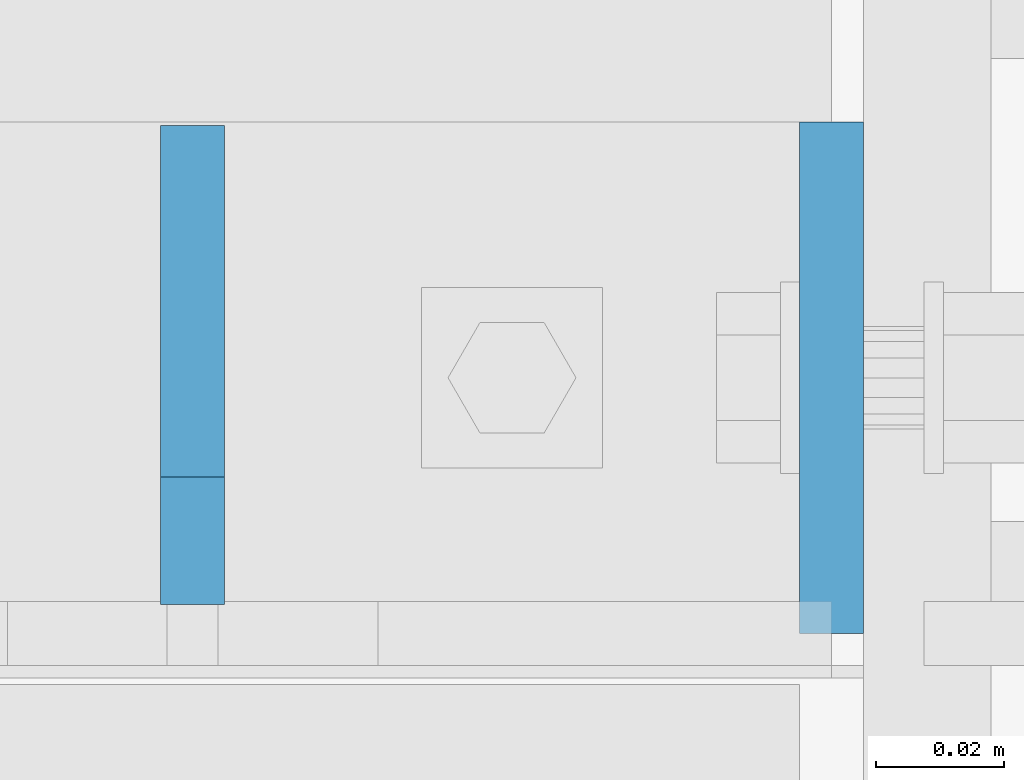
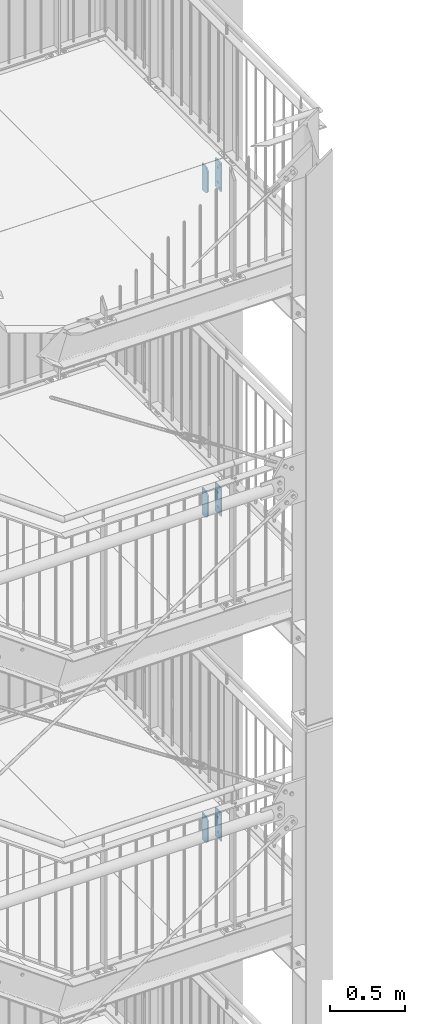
# One storey, part 207 of 831: 6 plates, 18 openings.
"""IFC2X3 building model written with IfcOpenShell, lengths in millimetres."""

from ifc_helpers import new_model, entity, si_unit, converted_unit, frame, frame_2d, origin, origin_with_axes, origin_2d_with_axis, place, context, project, spatial, polyline, circle, outline, extrude, material, layer, layer_set, element, save


model = new_model("IFC2X3")

# Units and contexts
model_context = context("Model", 3, precision=1e-09, world=origin_with_axes())
ifc_project = project(units=[si_unit("LENGTHUNIT", "METRE", prefix="MILLI"), si_unit("AREAUNIT", "SQUARE_METRE"), si_unit("VOLUMEUNIT", "CUBIC_METRE"), converted_unit("PLANEANGLEUNIT", "DEGREE", entity("IfcPlaneAngleMeasure", 0.01745329), si_unit("PLANEANGLEUNIT", "RADIAN"), dimensions=[0, 0, 0, 0, 0, 0, 0])], contexts=[model_context])

# Site, building, storey
site_placement = place(None, origin_with_axes())
site = spatial("IfcSite", under=ifc_project, at=site_placement, Name="Site", CompositionType="ELEMENT")
building_placement = place(site_placement, origin_with_axes())
building = spatial("IfcBuilding", under=site, at=building_placement, Name="Struktur 1", CompositionType="ELEMENT")
storey_placement = place(building_placement, origin_with_axes())
storey = spatial("IfcBuildingStorey", under=building, at=storey_placement, Name="Default Storey", CompositionType="ELEMENT", Elevation=0.0)

# Plate, openings
ifc_material = material(Name="S235JR")
ifc_layer = layer(ifc_material, 10.0)
ifc_layer_set = layer_set([ifc_layer], Name="S235JR")
plate_1_placement = place(None, frame((8971.713402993, 5741.736971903, 11260.5000003), z_axis=(-1.0, 0.0, 0.0), x_axis=(0.0, 1.0, 0.0)))
plate_1 = element("IfcPlate", 1, at=plate_1_placement, inside=storey, material=ifc_layer_set, Name="Endplate", ObjectType="Endplate", context=model_context, shape_type="SweptSolid", body=[
    extrude(outline(polyline([(0.0, 0.0), (80.0, 0.0), (80.0, 230.0), (0.0, 230.0), (0.0, 0.0)])), origin_with_axes(), (0.0, 0.0, 1.0), 10.0),
])
opening_1_placement = place(plate_1_placement, frame((17.5, 209.0, -0.5), z_axis=(0.0, 0.0, 1.0), x_axis=(0.0, -1.0, 0.0)))
element("IfcOpeningElement", 2, at=opening_1_placement, cuts=plate_1, ObjectType="Opening", context=model_context, shape_type="SweptSolid", body=[
    extrude(circle(Radius=6.001, at=origin_2d_with_axis()), origin(), (0.0, 0.0, 1.0), 11.0),
])
opening_2_placement = place(plate_1_placement, frame((17.5, 21.0, -0.5), z_axis=(0.0, 0.0, 1.0), x_axis=(0.0, -1.0, 0.0)))
element("IfcOpeningElement", 3, at=opening_2_placement, cuts=plate_1, ObjectType="Opening", context=model_context, shape_type="SweptSolid", body=[
    extrude(circle(Radius=6.001, at=origin_2d_with_axis()), origin(), (0.0, 0.0, 1.0), 11.0),
])
opening_3_placement = place(plate_1_placement, frame((40.0, 115.0, -0.5), z_axis=(0.0, 0.0, 1.0), x_axis=(0.0, -1.0, 0.0)))
element("IfcOpeningElement", 4, at=opening_3_placement, cuts=plate_1, ObjectType="Opening", context=model_context, shape_type="SweptSolid", body=[
    extrude(circle(Radius=9.001, at=frame_2d((60.0, 0.0), x_axis=(1.0, 0.0))), origin(), (0.0, 0.0, 1.0), 11.0),
])
opening_4_placement = place(plate_1_placement, frame((40.0, 115.0, -0.5), z_axis=(0.0, 0.0, 1.0), x_axis=(0.0, -1.0, 0.0)))
element("IfcOpeningElement", 5, at=opening_4_placement, cuts=plate_1, ObjectType="Opening", context=model_context, shape_type="SweptSolid", body=[
    extrude(circle(Radius=9.001, at=frame_2d((-60.0, 0.0), x_axis=(1.0, 0.0))), origin(), (0.0, 0.0, 1.0), 11.0),
])

plate_2_placement = place(None, frame((8861.713402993, 5821.236971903, 11254.355265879), z_axis=(1.0, 0.0, 0.0), x_axis=(0.0, -0.996815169, -0.079746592)))
plate_2 = element("IfcPlate", 6, at=plate_2_placement, inside=storey, material=ifc_layer_set, Name="Stiffener#1", ObjectType="Stiffener#1", context=model_context, shape_type="SweptSolid", body=[
    extrude(outline(polyline([(0.0, 0.0), (75.239625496, 0.0), (91.644322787, 205.05517107), (17.361672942, 217.017159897), (0.0, 0.0)])), origin_with_axes(), (0.0, 0.0, 1.0), 10.0),
])
opening_5_placement = place(plate_2_placement, frame((0.0, 0.0, -0.01), z_axis=(0.0, 0.0, 1.0), x_axis=(1.0, 0.0, 0.0)))
element("IfcOpeningElement", 7, at=opening_5_placement, cuts=plate_2, ObjectType="Opening", context=model_context, shape_type="SweptSolid", body=[
    extrude(outline(polyline([(91.644322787, 205.05517107), (71.898703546, 208.23487558), (90.049390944, 185.118867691), (91.644322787, 205.05517107)])), origin(), (0.0, 0.0, 1.0), 10.02),
])
opening_6_placement = place(plate_2_placement, frame((0.0, 0.0, -0.01), z_axis=(0.0, 0.0, 1.0), x_axis=(1.0, 0.0, 0.0)))
element("IfcOpeningElement", 8, at=opening_6_placement, cuts=plate_2, ObjectType="Opening", context=model_context, shape_type="SweptSolid", body=[
    extrude(outline(polyline([(75.239625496, 0.0), (76.83455734, 19.936303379), (55.239625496, 0.0), (75.239625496, 0.0)])), origin(), (0.0, 0.0, 1.0), 10.02),
])

plate_3_placement = place(None, frame((8971.713402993, 5741.736971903, 13891.5000001), z_axis=(-1.0, 0.0, 0.0), x_axis=(0.0, 1.0, 0.0)))
plate_3 = element("IfcPlate", 9, at=plate_3_placement, inside=storey, material=ifc_layer_set, Name="Endplate", ObjectType="Endplate", context=model_context, shape_type="SweptSolid", body=[
    extrude(outline(polyline([(0.0, 0.0), (80.0, 0.0), (80.0, 230.0), (0.0, 230.0), (0.0, 0.0)])), origin_with_axes(), (0.0, 0.0, 1.0), 10.0),
])
opening_7_placement = place(plate_3_placement, frame((17.5, 209.0, -0.5), z_axis=(0.0, 0.0, 1.0), x_axis=(0.0, -1.0, 0.0)))
element("IfcOpeningElement", 10, at=opening_7_placement, cuts=plate_3, ObjectType="Opening", context=model_context, shape_type="SweptSolid", body=[
    extrude(circle(Radius=6.001, at=origin_2d_with_axis()), origin(), (0.0, 0.0, 1.0), 11.0),
])
opening_8_placement = place(plate_3_placement, frame((17.5, 21.0, -0.5), z_axis=(0.0, 0.0, 1.0), x_axis=(0.0, -1.0, 0.0)))
element("IfcOpeningElement", 11, at=opening_8_placement, cuts=plate_3, ObjectType="Opening", context=model_context, shape_type="SweptSolid", body=[
    extrude(circle(Radius=6.001, at=origin_2d_with_axis()), origin(), (0.0, 0.0, 1.0), 11.0),
])
opening_9_placement = place(plate_3_placement, frame((40.0, 115.0, -0.5), z_axis=(0.0, 0.0, 1.0), x_axis=(0.0, -1.0, 0.0)))
element("IfcOpeningElement", 12, at=opening_9_placement, cuts=plate_3, ObjectType="Opening", context=model_context, shape_type="SweptSolid", body=[
    extrude(circle(Radius=9.001, at=frame_2d((60.0, 0.0), x_axis=(1.0, 0.0))), origin(), (0.0, 0.0, 1.0), 11.0),
])
opening_10_placement = place(plate_3_placement, frame((40.0, 115.0, -0.5), z_axis=(0.0, 0.0, 1.0), x_axis=(0.0, -1.0, 0.0)))
element("IfcOpeningElement", 13, at=opening_10_placement, cuts=plate_3, ObjectType="Opening", context=model_context, shape_type="SweptSolid", body=[
    extrude(circle(Radius=9.001, at=frame_2d((-60.0, 0.0), x_axis=(1.0, 0.0))), origin(), (0.0, 0.0, 1.0), 11.0),
])

plate_4_placement = place(None, frame((8861.713402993, 5821.236971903, 13885.355265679), z_axis=(1.0, 0.0, 0.0), x_axis=(0.0, -0.996815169, -0.079746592)))
plate_4 = element("IfcPlate", 14, at=plate_4_placement, inside=storey, material=ifc_layer_set, Name="Stiffener#1", ObjectType="Stiffener#1", context=model_context, shape_type="SweptSolid", body=[
    extrude(outline(polyline([(0.0, 0.0), (75.239625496, 0.0), (91.644322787, 205.05517107), (17.361672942, 217.017159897), (0.0, 0.0)])), origin_with_axes(), (0.0, 0.0, 1.0), 10.0),
])
opening_11_placement = place(plate_4_placement, frame((0.0, 0.0, -0.01), z_axis=(0.0, 0.0, 1.0), x_axis=(1.0, 0.0, 0.0)))
element("IfcOpeningElement", 15, at=opening_11_placement, cuts=plate_4, ObjectType="Opening", context=model_context, shape_type="SweptSolid", body=[
    extrude(outline(polyline([(91.644322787, 205.05517107), (71.898703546, 208.23487558), (90.049390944, 185.118867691), (91.644322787, 205.05517107)])), origin(), (0.0, 0.0, 1.0), 10.02),
])
opening_12_placement = place(plate_4_placement, frame((0.0, 0.0, -0.01), z_axis=(0.0, 0.0, 1.0), x_axis=(1.0, 0.0, 0.0)))
element("IfcOpeningElement", 16, at=opening_12_placement, cuts=plate_4, ObjectType="Opening", context=model_context, shape_type="SweptSolid", body=[
    extrude(outline(polyline([(75.239625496, 0.0), (76.83455734, 19.936303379), (55.239625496, 0.0), (75.239625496, 0.0)])), origin(), (0.0, 0.0, 1.0), 10.02),
])

plate_5_placement = place(None, frame((8971.713402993, 5741.736971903, 16519.0000003), z_axis=(-1.0, 0.0, 0.0), x_axis=(0.0, 1.0, 0.0)))
plate_5 = element("IfcPlate", 17, at=plate_5_placement, inside=storey, material=ifc_layer_set, Name="Endplate", ObjectType="Endplate", context=model_context, shape_type="SweptSolid", body=[
    extrude(outline(polyline([(0.0, 0.0), (80.0, 0.0), (80.0, 230.0), (0.0, 230.0), (0.0, 0.0)])), origin_with_axes(), (0.0, 0.0, 1.0), 10.0),
])
opening_13_placement = place(plate_5_placement, frame((17.5, 209.0, -0.5), z_axis=(0.0, 0.0, 1.0), x_axis=(0.0, -1.0, 0.0)))
element("IfcOpeningElement", 18, at=opening_13_placement, cuts=plate_5, ObjectType="Opening", context=model_context, shape_type="SweptSolid", body=[
    extrude(circle(Radius=6.001, at=origin_2d_with_axis()), origin(), (0.0, 0.0, 1.0), 11.0),
])
opening_14_placement = place(plate_5_placement, frame((17.5, 21.0, -0.5), z_axis=(0.0, 0.0, 1.0), x_axis=(0.0, -1.0, 0.0)))
element("IfcOpeningElement", 19, at=opening_14_placement, cuts=plate_5, ObjectType="Opening", context=model_context, shape_type="SweptSolid", body=[
    extrude(circle(Radius=6.001, at=origin_2d_with_axis()), origin(), (0.0, 0.0, 1.0), 11.0),
])
opening_15_placement = place(plate_5_placement, frame((40.0, 115.0, -0.5), z_axis=(0.0, 0.0, 1.0), x_axis=(0.0, -1.0, 0.0)))
element("IfcOpeningElement", 20, at=opening_15_placement, cuts=plate_5, ObjectType="Opening", context=model_context, shape_type="SweptSolid", body=[
    extrude(circle(Radius=9.001, at=frame_2d((60.0, 0.0), x_axis=(1.0, 0.0))), origin(), (0.0, 0.0, 1.0), 11.0),
])
opening_16_placement = place(plate_5_placement, frame((40.0, 115.0, -0.5), z_axis=(0.0, 0.0, 1.0), x_axis=(0.0, -1.0, 0.0)))
element("IfcOpeningElement", 21, at=opening_16_placement, cuts=plate_5, ObjectType="Opening", context=model_context, shape_type="SweptSolid", body=[
    extrude(circle(Radius=9.001, at=frame_2d((-60.0, 0.0), x_axis=(1.0, 0.0))), origin(), (0.0, 0.0, 1.0), 11.0),
])

plate_6_placement = place(None, frame((8861.713402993, 5821.236971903, 16512.855265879), z_axis=(1.0, 0.0, 0.0), x_axis=(0.0, -0.996815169, -0.079746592)))
plate_6 = element("IfcPlate", 22, at=plate_6_placement, inside=storey, material=ifc_layer_set, Name="Stiffener#1", ObjectType="Stiffener#1", context=model_context, shape_type="SweptSolid", body=[
    extrude(outline(polyline([(0.0, 0.0), (75.239625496, 0.0), (91.644322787, 205.05517107), (17.361672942, 217.017159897), (0.0, 0.0)])), origin_with_axes(), (0.0, 0.0, 1.0), 10.0),
])
opening_17_placement = place(plate_6_placement, frame((0.0, 0.0, -0.01), z_axis=(0.0, 0.0, 1.0), x_axis=(1.0, 0.0, 0.0)))
element("IfcOpeningElement", 23, at=opening_17_placement, cuts=plate_6, ObjectType="Opening", context=model_context, shape_type="SweptSolid", body=[
    extrude(outline(polyline([(91.644322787, 205.05517107), (71.898703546, 208.23487558), (90.049390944, 185.118867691), (91.644322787, 205.05517107)])), origin(), (0.0, 0.0, 1.0), 10.02),
])
opening_18_placement = place(plate_6_placement, frame((0.0, 0.0, -0.01), z_axis=(0.0, 0.0, 1.0), x_axis=(1.0, 0.0, 0.0)))
element("IfcOpeningElement", 24, at=opening_18_placement, cuts=plate_6, ObjectType="Opening", context=model_context, shape_type="SweptSolid", body=[
    extrude(outline(polyline([(75.239625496, 0.0), (76.83455734, 19.936303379), (55.239625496, 0.0), (75.239625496, 0.0)])), origin(), (0.0, 0.0, 1.0), 10.02),
])

save(model, "model.ifc")
